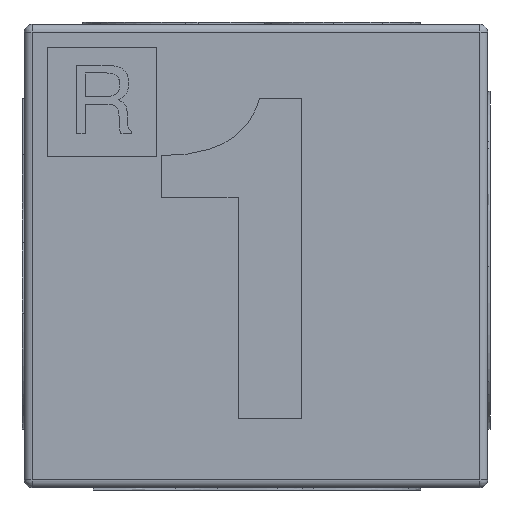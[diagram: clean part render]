
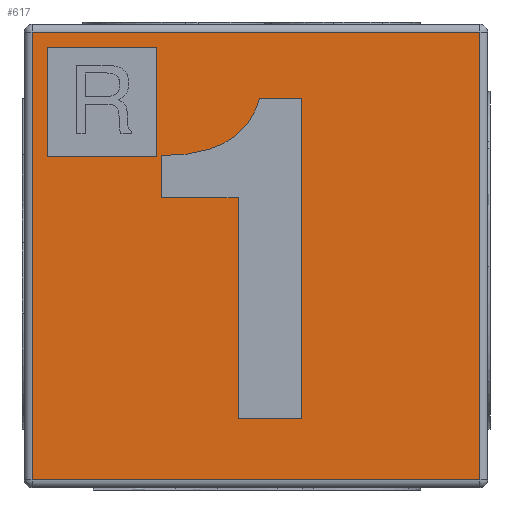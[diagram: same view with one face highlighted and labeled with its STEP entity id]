
A CAD part, front view. The second image highlights one B-rep face of the part: STEP entity #617.
In plain terms, the highlighted planar face has unit normal (0, -1, 0).
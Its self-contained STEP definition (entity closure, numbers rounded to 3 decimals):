
#140 = CYLINDRICAL_SURFACE('',#141,0.5);
#141 = AXIS2_PLACEMENT_3D('',#142,#143,#144);
#142 = CARTESIAN_POINT('',(-14.35,-14.35,-14.85));
#143 = DIRECTION('',(0.,0.,1.));
#144 = DIRECTION('',(-1.,-0.,0.));
#239 = VERTEX_POINT('',#240);
#240 = CARTESIAN_POINT('',(-14.35,-14.85,-14.35));
#267 = EDGE_CURVE('',#239,#268,#270,.T.);
#268 = VERTEX_POINT('',#269);
#269 = CARTESIAN_POINT('',(-14.35,-14.85,14.35));
#270 = SURFACE_CURVE('',#271,(#275,#282),.PCURVE_S1.);
#271 = LINE('',#272,#273);
#272 = CARTESIAN_POINT('',(-14.35,-14.85,-14.85));
#273 = VECTOR('',#274,1.);
#274 = DIRECTION('',(0.,0.,1.));
#275 = PCURVE('',#140,#276);
#276 = DEFINITIONAL_REPRESENTATION('',(#277),#281);
#277 = LINE('',#278,#279);
#278 = CARTESIAN_POINT('',(1.571,0.));
#279 = VECTOR('',#280,1.);
#280 = DIRECTION('',(0.,1.));
#281 = ( GEOMETRIC_REPRESENTATION_CONTEXT(2) 
PARAMETRIC_REPRESENTATION_CONTEXT() REPRESENTATION_CONTEXT('2D SPACE',''
  ) );
#282 = PCURVE('',#283,#288);
#283 = PLANE('',#284);
#284 = AXIS2_PLACEMENT_3D('',#285,#286,#287);
#285 = CARTESIAN_POINT('',(-14.85,-14.85,-14.85));
#286 = DIRECTION('',(0.,1.,0.));
#287 = DIRECTION('',(0.,0.,1.));
#288 = DEFINITIONAL_REPRESENTATION('',(#289),#293);
#289 = LINE('',#290,#291);
#290 = CARTESIAN_POINT('',(0.,0.5));
#291 = VECTOR('',#292,1.);
#292 = DIRECTION('',(1.,0.));
#293 = ( GEOMETRIC_REPRESENTATION_CONTEXT(2) 
PARAMETRIC_REPRESENTATION_CONTEXT() REPRESENTATION_CONTEXT('2D SPACE',''
  ) );
#576 = CYLINDRICAL_SURFACE('',#577,0.5);
#577 = AXIS2_PLACEMENT_3D('',#578,#579,#580);
#578 = CARTESIAN_POINT('',(-14.85,-14.35,-14.35));
#579 = DIRECTION('',(1.,0.,0.));
#580 = DIRECTION('',(0.,-1.,0.));
#606 = CYLINDRICAL_SURFACE('',#607,0.5);
#607 = AXIS2_PLACEMENT_3D('',#608,#609,#610);
#608 = CARTESIAN_POINT('',(-14.85,-14.35,14.35));
#609 = DIRECTION('',(1.,0.,0.));
#610 = DIRECTION('',(0.,-1.,0.));
#617 = ADVANCED_FACE('',(#618),#283,.F.);
#618 = FACE_BOUND('',#619,.F.);
#619 = EDGE_LOOP('',(#620,#621,#644,#672));
#620 = ORIENTED_EDGE('',*,*,#267,.T.);
#621 = ORIENTED_EDGE('',*,*,#622,.T.);
#622 = EDGE_CURVE('',#268,#623,#625,.T.);
#623 = VERTEX_POINT('',#624);
#624 = CARTESIAN_POINT('',(14.35,-14.85,14.35));
#625 = SURFACE_CURVE('',#626,(#630,#637),.PCURVE_S1.);
#626 = LINE('',#627,#628);
#627 = CARTESIAN_POINT('',(-14.85,-14.85,14.35));
#628 = VECTOR('',#629,1.);
#629 = DIRECTION('',(1.,0.,0.));
#630 = PCURVE('',#283,#631);
#631 = DEFINITIONAL_REPRESENTATION('',(#632),#636);
#632 = LINE('',#633,#634);
#633 = CARTESIAN_POINT('',(29.2,0.));
#634 = VECTOR('',#635,1.);
#635 = DIRECTION('',(0.,1.));
#636 = ( GEOMETRIC_REPRESENTATION_CONTEXT(2) 
PARAMETRIC_REPRESENTATION_CONTEXT() REPRESENTATION_CONTEXT('2D SPACE',''
  ) );
#637 = PCURVE('',#606,#638);
#638 = DEFINITIONAL_REPRESENTATION('',(#639),#643);
#639 = LINE('',#640,#641);
#640 = CARTESIAN_POINT('',(-0.,0.));
#641 = VECTOR('',#642,1.);
#642 = DIRECTION('',(-0.,1.));
#643 = ( GEOMETRIC_REPRESENTATION_CONTEXT(2) 
PARAMETRIC_REPRESENTATION_CONTEXT() REPRESENTATION_CONTEXT('2D SPACE',''
  ) );
#644 = ORIENTED_EDGE('',*,*,#645,.F.);
#645 = EDGE_CURVE('',#646,#623,#648,.T.);
#646 = VERTEX_POINT('',#647);
#647 = CARTESIAN_POINT('',(14.35,-14.85,-14.35));
#648 = SURFACE_CURVE('',#649,(#653,#660),.PCURVE_S1.);
#649 = LINE('',#650,#651);
#650 = CARTESIAN_POINT('',(14.35,-14.85,-14.85));
#651 = VECTOR('',#652,1.);
#652 = DIRECTION('',(0.,0.,1.));
#653 = PCURVE('',#283,#654);
#654 = DEFINITIONAL_REPRESENTATION('',(#655),#659);
#655 = LINE('',#656,#657);
#656 = CARTESIAN_POINT('',(0.,29.2));
#657 = VECTOR('',#658,1.);
#658 = DIRECTION('',(1.,0.));
#659 = ( GEOMETRIC_REPRESENTATION_CONTEXT(2) 
PARAMETRIC_REPRESENTATION_CONTEXT() REPRESENTATION_CONTEXT('2D SPACE',''
  ) );
#660 = PCURVE('',#661,#666);
#661 = CYLINDRICAL_SURFACE('',#662,0.5);
#662 = AXIS2_PLACEMENT_3D('',#663,#664,#665);
#663 = CARTESIAN_POINT('',(14.35,-14.35,-14.85));
#664 = DIRECTION('',(0.,0.,1.));
#665 = DIRECTION('',(1.,0.,-0.));
#666 = DEFINITIONAL_REPRESENTATION('',(#667),#671);
#667 = LINE('',#668,#669);
#668 = CARTESIAN_POINT('',(-1.571,0.));
#669 = VECTOR('',#670,1.);
#670 = DIRECTION('',(-0.,1.));
#671 = ( GEOMETRIC_REPRESENTATION_CONTEXT(2) 
PARAMETRIC_REPRESENTATION_CONTEXT() REPRESENTATION_CONTEXT('2D SPACE',''
  ) );
#672 = ORIENTED_EDGE('',*,*,#673,.F.);
#673 = EDGE_CURVE('',#239,#646,#674,.T.);
#674 = SURFACE_CURVE('',#675,(#679,#686),.PCURVE_S1.);
#675 = LINE('',#676,#677);
#676 = CARTESIAN_POINT('',(-14.85,-14.85,-14.35));
#677 = VECTOR('',#678,1.);
#678 = DIRECTION('',(1.,0.,0.));
#679 = PCURVE('',#283,#680);
#680 = DEFINITIONAL_REPRESENTATION('',(#681),#685);
#681 = LINE('',#682,#683);
#682 = CARTESIAN_POINT('',(0.5,0.));
#683 = VECTOR('',#684,1.);
#684 = DIRECTION('',(0.,1.));
#685 = ( GEOMETRIC_REPRESENTATION_CONTEXT(2) 
PARAMETRIC_REPRESENTATION_CONTEXT() REPRESENTATION_CONTEXT('2D SPACE',''
  ) );
#686 = PCURVE('',#576,#687);
#687 = DEFINITIONAL_REPRESENTATION('',(#688),#692);
#688 = LINE('',#689,#690);
#689 = CARTESIAN_POINT('',(0.,0.));
#690 = VECTOR('',#691,1.);
#691 = DIRECTION('',(0.,1.));
#692 = ( GEOMETRIC_REPRESENTATION_CONTEXT(2) 
PARAMETRIC_REPRESENTATION_CONTEXT() REPRESENTATION_CONTEXT('2D SPACE',''
  ) );
